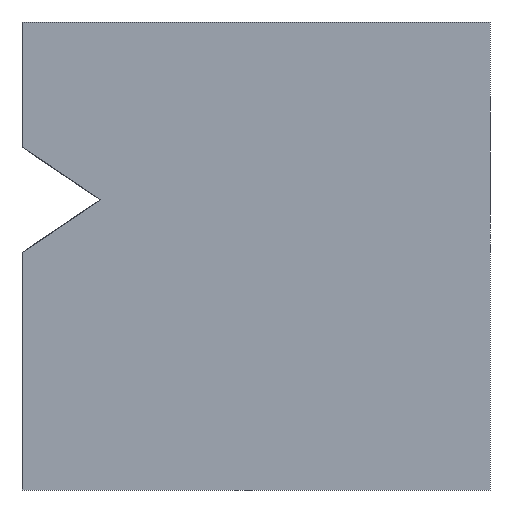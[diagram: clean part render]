
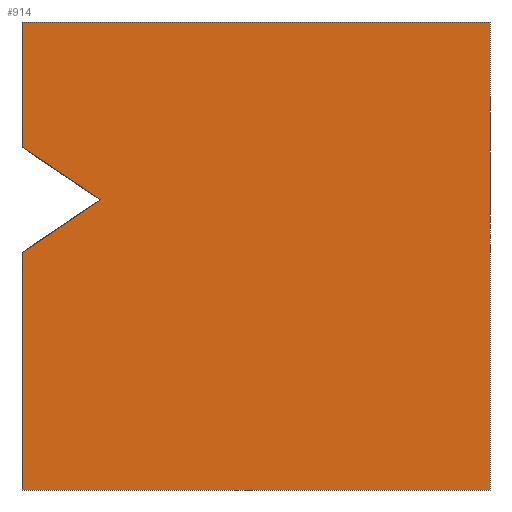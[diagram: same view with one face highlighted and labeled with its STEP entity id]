
A CAD part, front view. The second image highlights one B-rep face of the part: STEP entity #914.
In plain terms, the highlighted planar face has unit normal (0, -1, 0).
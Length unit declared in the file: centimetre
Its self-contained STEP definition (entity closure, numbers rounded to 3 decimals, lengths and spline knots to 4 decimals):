
#21 = CARTESIAN_POINT ( 'NONE',  ( 0., 0., 1000. ) ) ;
#43 = CARTESIAN_POINT ( 'NONE',  ( 0., 0., 507.1435 ) ) ;
#50 = VECTOR ( 'NONE', #816, 100. ) ;
#79 = LINE ( 'NONE', #644, #87 ) ;
#86 = DIRECTION ( 'NONE',  ( 1., 0., 0. ) ) ;
#87 = VECTOR ( 'NONE', #578, 100. ) ;
#120 = VERTEX_POINT ( 'NONE', #471 ) ;
#136 = VECTOR ( 'NONE', #86, 100. ) ;
#150 = CARTESIAN_POINT ( 'NONE',  ( 167.1671, 0., 620.0024 ) ) ;
#155 = LINE ( 'NONE', #662, #663 ) ;
#174 = DIRECTION ( 'NONE',  ( 0.829, 0., -0.56 ) ) ;
#180 = LINE ( 'NONE', #43, #50 ) ;
#195 = VERTEX_POINT ( 'NONE', #403 ) ;
#197 = EDGE_CURVE ( 'NONE', #790, #473, #180, .T. ) ;
#214 = EDGE_CURVE ( 'NONE', #473, #120, #224, .T. ) ;
#224 = LINE ( 'NONE', #529, #347 ) ;
#317 = VECTOR ( 'NONE', #925, 100. ) ;
#339 = EDGE_CURVE ( 'NONE', #195, #379, #449, .T. ) ;
#345 = EDGE_CURVE ( 'NONE', #120, #418, #155, .T. ) ;
#347 = VECTOR ( 'NONE', #387, 100. ) ;
#356 = ORIENTED_EDGE ( 'NONE', *, *, #197, .T. ) ;
#379 = VERTEX_POINT ( 'NONE', #429 ) ;
#385 = LINE ( 'NONE', #675, #749 ) ;
#387 = DIRECTION ( 'NONE',  ( 0., 0., -1. ) ) ;
#403 = CARTESIAN_POINT ( 'NONE',  ( 0., 0., 1000. ) ) ;
#418 = VERTEX_POINT ( 'NONE', #661 ) ;
#429 = CARTESIAN_POINT ( 'NONE',  ( 1000., 0., 1000. ) ) ;
#443 = DIRECTION ( 'NONE',  ( 1., 0., 0. ) ) ;
#449 = LINE ( 'NONE', #800, #136 ) ;
#450 = AXIS2_PLACEMENT_3D ( 'NONE', #21, #874, #510 ) ;
#471 = CARTESIAN_POINT ( 'NONE',  ( 0., 0., 0. ) ) ;
#473 = VERTEX_POINT ( 'NONE', #577 ) ;
#474 = ORIENTED_EDGE ( 'NONE', *, *, #579, .T. ) ;
#494 = VERTEX_POINT ( 'NONE', #709 ) ;
#510 = DIRECTION ( 'NONE',  ( 0., 0., 1. ) ) ;
#529 = CARTESIAN_POINT ( 'NONE',  ( 0., 0., 1000. ) ) ;
#553 = ORIENTED_EDGE ( 'NONE', *, *, #214, .T. ) ;
#568 = LINE ( 'NONE', #915, #317 ) ;
#577 = CARTESIAN_POINT ( 'NONE',  ( 0., 0., 507.1435 ) ) ;
#578 = DIRECTION ( 'NONE',  ( 0., 0., -1. ) ) ;
#579 = EDGE_CURVE ( 'NONE', #494, #790, #385, .T. ) ;
#627 = ORIENTED_EDGE ( 'NONE', *, *, #849, .T. ) ;
#644 = CARTESIAN_POINT ( 'NONE',  ( 0., 0., 1000. ) ) ;
#661 = CARTESIAN_POINT ( 'NONE',  ( 1000., 0., 0. ) ) ;
#662 = CARTESIAN_POINT ( 'NONE',  ( 0., 0., 0. ) ) ;
#663 = VECTOR ( 'NONE', #443, 100. ) ;
#666 = PLANE ( 'NONE',  #450 ) ;
#675 = CARTESIAN_POINT ( 'NONE',  ( 167.1671, 0., 620.0024 ) ) ;
#699 = EDGE_CURVE ( 'NONE', #379, #418, #568, .T. ) ;
#709 = CARTESIAN_POINT ( 'NONE',  ( 0., 0., 732.8613 ) ) ;
#725 = FACE_OUTER_BOUND ( 'NONE', #838, .T. ) ;
#749 = VECTOR ( 'NONE', #174, 100. ) ;
#790 = VERTEX_POINT ( 'NONE', #150 ) ;
#800 = CARTESIAN_POINT ( 'NONE',  ( 0., 0., 1000. ) ) ;
#816 = DIRECTION ( 'NONE',  ( -0.829, 0., -0.56 ) ) ;
#818 = ORIENTED_EDGE ( 'NONE', *, *, #699, .F. ) ;
#838 = EDGE_LOOP ( 'NONE', ( #474, #356, #553, #877, #818, #854, #627 ) ) ;
#849 = EDGE_CURVE ( 'NONE', #195, #494, #79, .T. ) ;
#854 = ORIENTED_EDGE ( 'NONE', *, *, #339, .F. ) ;
#874 = DIRECTION ( 'NONE',  ( 0., 1., 0. ) ) ;
#877 = ORIENTED_EDGE ( 'NONE', *, *, #345, .T. ) ;
#914 = ADVANCED_FACE ( 'NONE', ( #725 ), #666, .F. ) ;
#915 = CARTESIAN_POINT ( 'NONE',  ( 1000., 0., 1000. ) ) ;
#925 = DIRECTION ( 'NONE',  ( 0., 0., -1. ) ) ;
